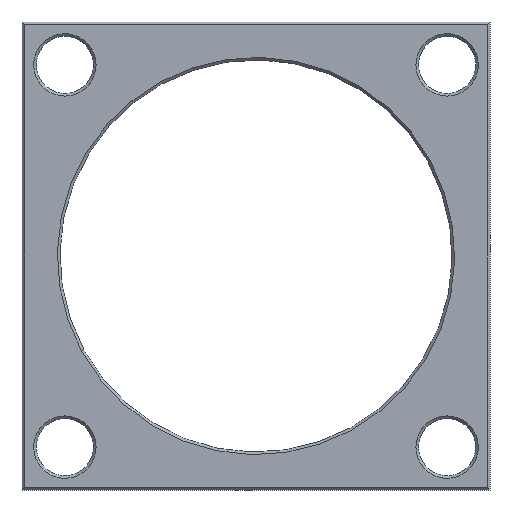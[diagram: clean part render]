
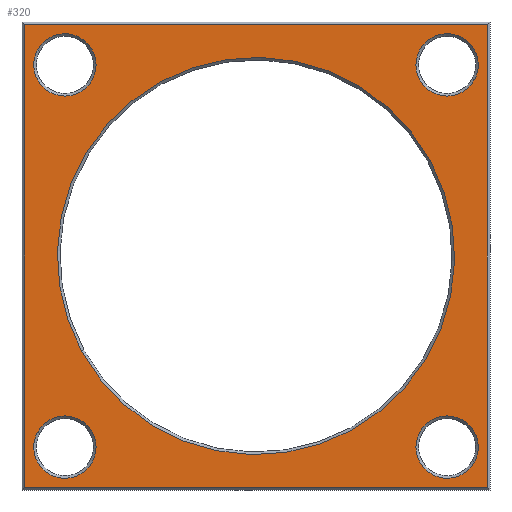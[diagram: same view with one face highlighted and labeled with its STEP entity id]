
A CAD part, front view. The second image highlights one B-rep face of the part: STEP entity #320.
In plain terms, the highlighted planar face has unit normal (0, -1, 0).
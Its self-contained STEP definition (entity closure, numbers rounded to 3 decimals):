
#166=CARTESIAN_POINT('Vertex',(33.524,0.,18.314)) ;
#173=CARTESIAN_POINT('Vertex',(-33.524,0.,-18.314)) ;
#176=CARTESIAN_POINT('Axis2P3D Location',(0.,0.,0.)) ;
#193=CARTESIAN_POINT('Axis2P3D Location',(0.,0.,0.)) ;
#205=CARTESIAN_POINT('Axis2P3D Location',(0.,0.,0.)) ;
#210=CARTESIAN_POINT('Line Origine',(0.,0.,44.5)) ;
#214=CARTESIAN_POINT('Vertex',(-44.5,0.,44.5)) ;
#216=CARTESIAN_POINT('Vertex',(44.5,0.,44.5)) ;
#219=CARTESIAN_POINT('Line Origine',(-44.5,0.,0.)) ;
#223=CARTESIAN_POINT('Vertex',(-44.5,0.,-44.5)) ;
#226=CARTESIAN_POINT('Line Origine',(0.,0.,-44.5)) ;
#230=CARTESIAN_POINT('Vertex',(44.5,0.,-44.5)) ;
#233=CARTESIAN_POINT('Line Origine',(44.5,0.,0.)) ;
#244=CARTESIAN_POINT('Axis2P3D Location',(-36.75,0.,-36.75)) ;
#248=CARTESIAN_POINT('Vertex',(-42.015,0.,-33.873)) ;
#250=CARTESIAN_POINT('Vertex',(-31.485,0.,-39.627)) ;
#253=CARTESIAN_POINT('Axis2P3D Location',(-36.75,0.,-36.75)) ;
#262=CARTESIAN_POINT('Axis2P3D Location',(36.75,0.,-36.75)) ;
#266=CARTESIAN_POINT('Vertex',(31.485,0.,-33.873)) ;
#268=CARTESIAN_POINT('Vertex',(42.015,0.,-39.627)) ;
#271=CARTESIAN_POINT('Axis2P3D Location',(36.75,0.,-36.75)) ;
#280=CARTESIAN_POINT('Axis2P3D Location',(-36.75,0.,36.75)) ;
#284=CARTESIAN_POINT('Vertex',(-42.015,0.,39.627)) ;
#286=CARTESIAN_POINT('Vertex',(-31.485,0.,33.873)) ;
#289=CARTESIAN_POINT('Axis2P3D Location',(-36.75,0.,36.75)) ;
#302=CARTESIAN_POINT('Axis2P3D Location',(36.75,0.,36.75)) ;
#306=CARTESIAN_POINT('Vertex',(42.015,0.,33.873)) ;
#308=CARTESIAN_POINT('Vertex',(31.485,0.,39.627)) ;
#311=CARTESIAN_POINT('Axis2P3D Location',(36.75,0.,36.75)) ;
#177=DIRECTION('Axis2P3D Direction',(0.,1.,0.)) ;
#194=DIRECTION('Axis2P3D Direction',(0.,1.,0.)) ;
#206=DIRECTION('Axis2P3D Direction',(0.,1.,0.)) ;
#207=DIRECTION('Axis2P3D XDirection',(-1.,0.,0.)) ;
#211=DIRECTION('Vector Direction',(-1.,0.,0.)) ;
#220=DIRECTION('Vector Direction',(0.,0.,1.)) ;
#227=DIRECTION('Vector Direction',(1.,0.,0.)) ;
#234=DIRECTION('Vector Direction',(0.,0.,-1.)) ;
#245=DIRECTION('Axis2P3D Direction',(0.,1.,0.)) ;
#254=DIRECTION('Axis2P3D Direction',(0.,1.,0.)) ;
#263=DIRECTION('Axis2P3D Direction',(0.,1.,0.)) ;
#272=DIRECTION('Axis2P3D Direction',(0.,1.,0.)) ;
#281=DIRECTION('Axis2P3D Direction',(0.,1.,0.)) ;
#290=DIRECTION('Axis2P3D Direction',(0.,1.,0.)) ;
#303=DIRECTION('Axis2P3D Direction',(0.,1.,0.)) ;
#312=DIRECTION('Axis2P3D Direction',(0.,1.,0.)) ;
#178=AXIS2_PLACEMENT_3D('Circle Axis2P3D',#176,#177,$) ;
#195=AXIS2_PLACEMENT_3D('Circle Axis2P3D',#193,#194,$) ;
#208=AXIS2_PLACEMENT_3D('Plane Axis2P3D',#205,#206,#207) ;
#246=AXIS2_PLACEMENT_3D('Circle Axis2P3D',#244,#245,$) ;
#255=AXIS2_PLACEMENT_3D('Circle Axis2P3D',#253,#254,$) ;
#264=AXIS2_PLACEMENT_3D('Circle Axis2P3D',#262,#263,$) ;
#273=AXIS2_PLACEMENT_3D('Circle Axis2P3D',#271,#272,$) ;
#282=AXIS2_PLACEMENT_3D('Circle Axis2P3D',#280,#281,$) ;
#291=AXIS2_PLACEMENT_3D('Circle Axis2P3D',#289,#290,$) ;
#304=AXIS2_PLACEMENT_3D('Circle Axis2P3D',#302,#303,$) ;
#313=AXIS2_PLACEMENT_3D('Circle Axis2P3D',#311,#312,$) ;
#239=ORIENTED_EDGE('',*,*,#218,.F.) ;
#240=ORIENTED_EDGE('',*,*,#225,.F.) ;
#241=ORIENTED_EDGE('',*,*,#232,.F.) ;
#242=ORIENTED_EDGE('',*,*,#237,.F.) ;
#259=ORIENTED_EDGE('',*,*,#252,.T.) ;
#260=ORIENTED_EDGE('',*,*,#257,.T.) ;
#277=ORIENTED_EDGE('',*,*,#270,.T.) ;
#278=ORIENTED_EDGE('',*,*,#275,.T.) ;
#295=ORIENTED_EDGE('',*,*,#288,.T.) ;
#296=ORIENTED_EDGE('',*,*,#293,.T.) ;
#299=ORIENTED_EDGE('',*,*,#197,.T.) ;
#300=ORIENTED_EDGE('',*,*,#180,.T.) ;
#317=ORIENTED_EDGE('',*,*,#310,.T.) ;
#318=ORIENTED_EDGE('',*,*,#315,.T.) ;
#261=FACE_BOUND('',#258,.T.) ;
#279=FACE_BOUND('',#276,.T.) ;
#297=FACE_BOUND('',#294,.T.) ;
#301=FACE_BOUND('',#298,.T.) ;
#319=FACE_BOUND('',#316,.T.) ;
#212=VECTOR('Line Direction',#211,1.) ;
#221=VECTOR('Line Direction',#220,1.) ;
#228=VECTOR('Line Direction',#227,1.) ;
#235=VECTOR('Line Direction',#234,1.) ;
#320=ADVANCED_FACE('',(#243,#261,#279,#297,#301,#319),#209,.F.) ;
#179=CIRCLE('generated circle',#178,38.2) ;
#196=CIRCLE('generated circle',#195,38.2) ;
#247=CIRCLE('generated circle',#246,6.) ;
#256=CIRCLE('generated circle',#255,6.) ;
#265=CIRCLE('generated circle',#264,6.) ;
#274=CIRCLE('generated circle',#273,6.) ;
#283=CIRCLE('generated circle',#282,6.) ;
#292=CIRCLE('generated circle',#291,6.) ;
#305=CIRCLE('generated circle',#304,6.) ;
#314=CIRCLE('generated circle',#313,6.) ;
#180=EDGE_CURVE('',#167,#174,#179,.T.) ;
#197=EDGE_CURVE('',#174,#167,#196,.T.) ;
#218=EDGE_CURVE('',#215,#217,#213,.F.) ;
#225=EDGE_CURVE('',#224,#215,#222,.T.) ;
#232=EDGE_CURVE('',#231,#224,#229,.F.) ;
#237=EDGE_CURVE('',#217,#231,#236,.T.) ;
#252=EDGE_CURVE('',#249,#251,#247,.T.) ;
#257=EDGE_CURVE('',#251,#249,#256,.T.) ;
#270=EDGE_CURVE('',#267,#269,#265,.T.) ;
#275=EDGE_CURVE('',#269,#267,#274,.T.) ;
#288=EDGE_CURVE('',#285,#287,#283,.T.) ;
#293=EDGE_CURVE('',#287,#285,#292,.T.) ;
#310=EDGE_CURVE('',#307,#309,#305,.T.) ;
#315=EDGE_CURVE('',#309,#307,#314,.T.) ;
#238=EDGE_LOOP('',(#239,#240,#241,#242)) ;
#258=EDGE_LOOP('',(#259,#260)) ;
#276=EDGE_LOOP('',(#277,#278)) ;
#294=EDGE_LOOP('',(#295,#296)) ;
#298=EDGE_LOOP('',(#299,#300)) ;
#316=EDGE_LOOP('',(#317,#318)) ;
#243=FACE_OUTER_BOUND('',#238,.T.) ;
#213=LINE('Line',#210,#212) ;
#222=LINE('Line',#219,#221) ;
#229=LINE('Line',#226,#228) ;
#236=LINE('Line',#233,#235) ;
#209=PLANE('Plane',#208) ;
#167=VERTEX_POINT('',#166) ;
#174=VERTEX_POINT('',#173) ;
#215=VERTEX_POINT('',#214) ;
#217=VERTEX_POINT('',#216) ;
#224=VERTEX_POINT('',#223) ;
#231=VERTEX_POINT('',#230) ;
#249=VERTEX_POINT('',#248) ;
#251=VERTEX_POINT('',#250) ;
#267=VERTEX_POINT('',#266) ;
#269=VERTEX_POINT('',#268) ;
#285=VERTEX_POINT('',#284) ;
#287=VERTEX_POINT('',#286) ;
#307=VERTEX_POINT('',#306) ;
#309=VERTEX_POINT('',#308) ;
